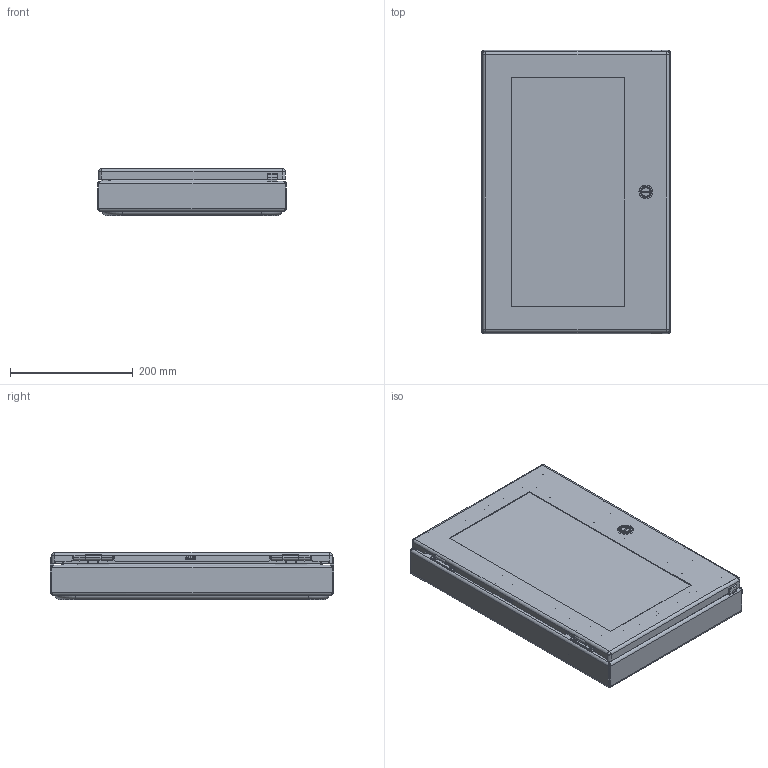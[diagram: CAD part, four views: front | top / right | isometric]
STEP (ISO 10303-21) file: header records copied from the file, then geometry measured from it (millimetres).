
FILE_DESCRIPTION (( 'STEP AP203' ), '1' );
FILE_NAME ('awdh2016n4ss.STEP', '2021-07-16T18:23:13', ( '' ), ( '' ), 'SwSTEP 2.0', 'SolidWorks 2016', '' );
FILE_SCHEMA (( 'CONFIG_CONTROL_DESIGN' ));
Length unit declared in the file: inch
Products named in the file (34): 89082395; 64201001; 87927840_87927840; 89144636_96194A101; 89082410; 99414350; 64202002; 64138001; 87932266; 89044775_Main; 87846295_PEM WNS-M6-0 ---C; 89067304_B18.6.7M - M5 x 0.8 x 16 Type I Cross Recessed FHMS --16N; 87543026; 89044829; 89044805; 64210001; 89044782; 87930615; 87929769_Installed on Pin; 87751114_87751114; 87928711; 87572290; 89082380; 64101002; 89131630; awdh2016n4ss; 87541995; 89076399; 89159236; 64203001; 89076193; 87572276; 89044789; 89117471
Assembly tree (83 placements, depth 4):
  awdh2016n4ss
    89044805
      89117471
      99414350
      89044829
      87846295_PEM WNS-M6-0 ---C  x14
    89159236
      89044775_Main
        89044782
        87751114_87751114  x16
        89044789
      64101002
        64201001
        87932266
        87541995
        64202002
        64210001
        64203001
        87927840_87927840
      89144636_96194A101  x16
      64138001  x2
      89082395
        89082380
        89082410
      87572290  x2
      87572276  x2
    87543026  x2
    89076399  x2
      89076193
      89131630
    87930615  x2
      87928711
      87929769_Installed on Pin
    89067304_B18.6.7M - M5 x 0.8 x 16 Type I Cross Recessed FHMS --16N  x2
Bounding box: 308.36 x 463.3 x 76.83 mm (x, y, z)
Volume: 1206242.2 mm3; surface area: 913458.1 mm2
Topology: 78 solids, 78 shells, 4147 faces, 10689 edges, 6769 vertices
Faces by surface type: plane 2088, cylinder 1131, cone 378, bspline 370, torus 168, sphere 12
Entity records: 64269 total; most frequent: CARTESIAN_POINT 24420, ORIENTED_EDGE 7720, DIRECTION 6472, EDGE_CURVE 3860, VERTEX_POINT 2417, AXIS2_PLACEMENT_3D 2237, VECTOR 1998, LINE 1998
